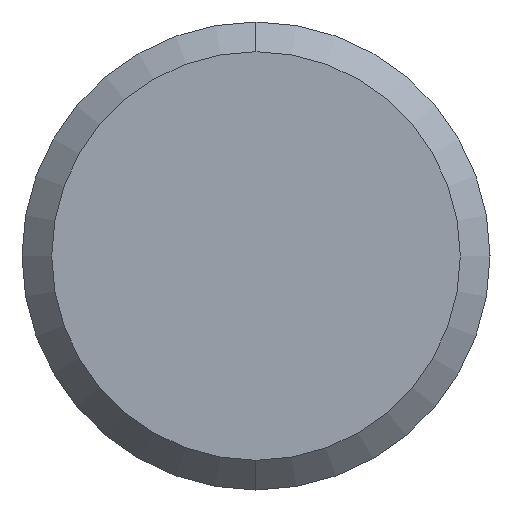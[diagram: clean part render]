
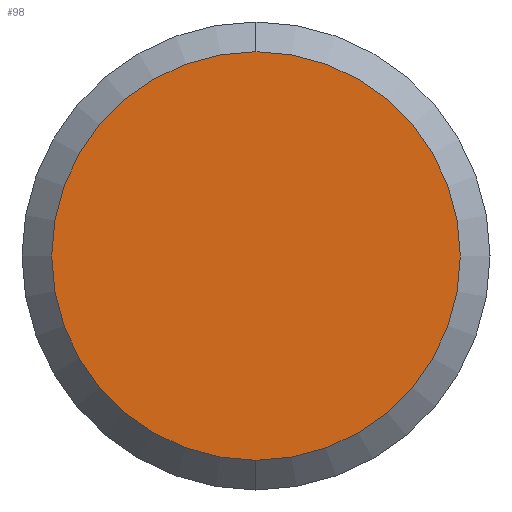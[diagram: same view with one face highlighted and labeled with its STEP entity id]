
A CAD part, left-side view. The second image highlights one B-rep face of the part: STEP entity #98.
In plain terms, the highlighted planar face has unit normal (-1, 0, 0).
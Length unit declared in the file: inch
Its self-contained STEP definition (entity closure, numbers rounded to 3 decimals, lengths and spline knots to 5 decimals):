
#34 = DIRECTION ( 'NONE',  ( 0., 0., -1. ) ) ;
#40 = DIRECTION ( 'NONE',  ( 0., 0., -1. ) ) ;
#44 = ORIENTED_EDGE ( 'NONE', *, *, #127, .F. ) ;
#66 = AXIS2_PLACEMENT_3D ( 'NONE', #219, #94, #34 ) ;
#69 = ORIENTED_EDGE ( 'NONE', *, *, #208, .F. ) ;
#80 = CIRCLE ( 'NONE', #119, 0.17185 ) ;
#94 = DIRECTION ( 'NONE',  ( 1., 0., 0. ) ) ;
#98 = ADVANCED_FACE ( 'NONE', ( #315 ), #257, .T. ) ;
#117 = CARTESIAN_POINT ( 'NONE',  ( 0., 0., -0.17185 ) ) ;
#119 = AXIS2_PLACEMENT_3D ( 'NONE', #144, #294, #40 ) ;
#127 = EDGE_CURVE ( 'NONE', #331, #297, #235, .T. ) ;
#144 = CARTESIAN_POINT ( 'NONE',  ( 0., 0., 0. ) ) ;
#204 = CARTESIAN_POINT ( 'NONE',  ( 0., 0., 0.17185 ) ) ;
#208 = EDGE_CURVE ( 'NONE', #297, #331, #80, .T. ) ;
#219 = CARTESIAN_POINT ( 'NONE',  ( 0., 0., 0. ) ) ;
#235 = CIRCLE ( 'NONE', #66, 0.17185 ) ;
#249 = AXIS2_PLACEMENT_3D ( 'NONE', #306, #376, #338 ) ;
#257 = PLANE ( 'NONE',  #249 ) ;
#267 = EDGE_LOOP ( 'NONE', ( #69, #44 ) ) ;
#294 = DIRECTION ( 'NONE',  ( 1., 0., 0. ) ) ;
#297 = VERTEX_POINT ( 'NONE', #117 ) ;
#306 = CARTESIAN_POINT ( 'NONE',  ( 0., 0.17185, 0. ) ) ;
#315 = FACE_OUTER_BOUND ( 'NONE', #267, .T. ) ;
#331 = VERTEX_POINT ( 'NONE', #204 ) ;
#338 = DIRECTION ( 'NONE',  ( 0., 0., 1. ) ) ;
#376 = DIRECTION ( 'NONE',  ( -1., 0., 0. ) ) ;
